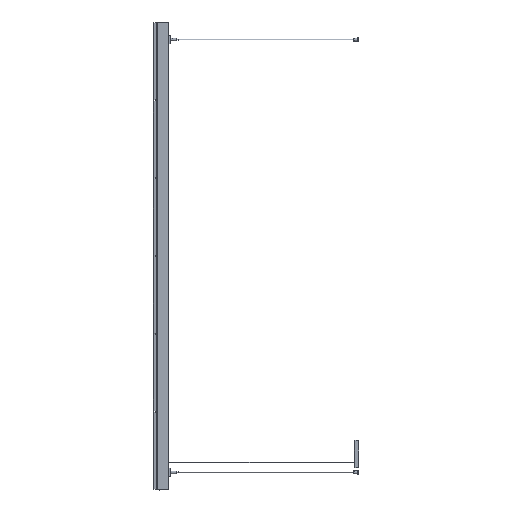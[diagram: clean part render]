
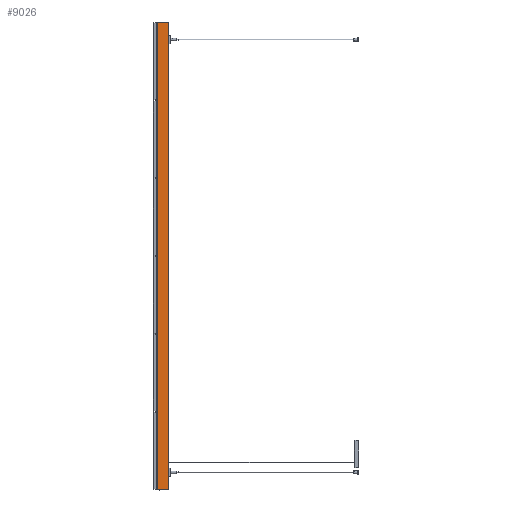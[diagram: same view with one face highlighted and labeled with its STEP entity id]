
A CAD part, left-side view. The second image highlights one B-rep face of the part: STEP entity #9026.
In plain terms, the highlighted planar face has unit normal (-1, 0, 0).
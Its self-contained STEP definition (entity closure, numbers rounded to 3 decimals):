
#443 = PLANE ( 'NONE',  #14928 ) ;
#1125 = FACE_OUTER_BOUND ( 'NONE', #2985, .T. ) ;
#1681 = VECTOR ( 'NONE', #2456, 1000. ) ;
#2085 = DIRECTION ( 'NONE',  ( 0., 1., 0. ) ) ;
#2456 = DIRECTION ( 'NONE',  ( 0., 0., -1. ) ) ;
#2661 = ORIENTED_EDGE ( 'NONE', *, *, #18755, .T. ) ;
#2985 = EDGE_LOOP ( 'NONE', ( #7769, #8632, #18043, #2661 ) ) ;
#3965 = CARTESIAN_POINT ( 'NONE',  ( -21., 37.1, 1722. ) ) ;
#3972 = VECTOR ( 'NONE', #15708, 1000. ) ;
#4967 = CARTESIAN_POINT ( 'NONE',  ( -21., -1.2, 1722. ) ) ;
#6017 = LINE ( 'NONE', #7357, #1681 ) ;
#6320 = CARTESIAN_POINT ( 'NONE',  ( -21., -1.2, 0. ) ) ;
#7357 = CARTESIAN_POINT ( 'NONE',  ( -21., 37.1, 1722. ) ) ;
#7769 = ORIENTED_EDGE ( 'NONE', *, *, #19528, .T. ) ;
#8030 = LINE ( 'NONE', #4967, #20181 ) ;
#8076 = VERTEX_POINT ( 'NONE', #8832 ) ;
#8383 = VECTOR ( 'NONE', #8389, 1000. ) ;
#8389 = DIRECTION ( 'NONE',  ( 0., -1., 0. ) ) ;
#8632 = ORIENTED_EDGE ( 'NONE', *, *, #10520, .F. ) ;
#8832 = CARTESIAN_POINT ( 'NONE',  ( -21., -1.2, 1722. ) ) ;
#9026 = ADVANCED_FACE ( 'NONE', ( #1125 ), #443, .F. ) ;
#10260 = VERTEX_POINT ( 'NONE', #3965 ) ;
#10520 = EDGE_CURVE ( 'NONE', #8076, #11567, #8030, .T. ) ;
#11567 = VERTEX_POINT ( 'NONE', #6320 ) ;
#11699 = DIRECTION ( 'NONE',  ( 1., 0., 0. ) ) ;
#12474 = LINE ( 'NONE', #12533, #3972 ) ;
#12513 = EDGE_CURVE ( 'NONE', #10260, #8076, #12616, .T. ) ;
#12533 = CARTESIAN_POINT ( 'NONE',  ( -21., 37.1, 0. ) ) ;
#12616 = LINE ( 'NONE', #14694, #8383 ) ;
#12943 = CARTESIAN_POINT ( 'NONE',  ( -21., 37.1, 0. ) ) ;
#14694 = CARTESIAN_POINT ( 'NONE',  ( -21., 37.1, 1722. ) ) ;
#14928 = AXIS2_PLACEMENT_3D ( 'NONE', #18001, #11699, #2085 ) ;
#15708 = DIRECTION ( 'NONE',  ( 0., -1., 0. ) ) ;
#16107 = DIRECTION ( 'NONE',  ( 0., 0., -1. ) ) ;
#16517 = VERTEX_POINT ( 'NONE', #12943 ) ;
#18001 = CARTESIAN_POINT ( 'NONE',  ( -21., 37.1, 1722. ) ) ;
#18043 = ORIENTED_EDGE ( 'NONE', *, *, #12513, .F. ) ;
#18755 = EDGE_CURVE ( 'NONE', #10260, #16517, #6017, .T. ) ;
#19528 = EDGE_CURVE ( 'NONE', #16517, #11567, #12474, .T. ) ;
#20181 = VECTOR ( 'NONE', #16107, 1000. ) ;
